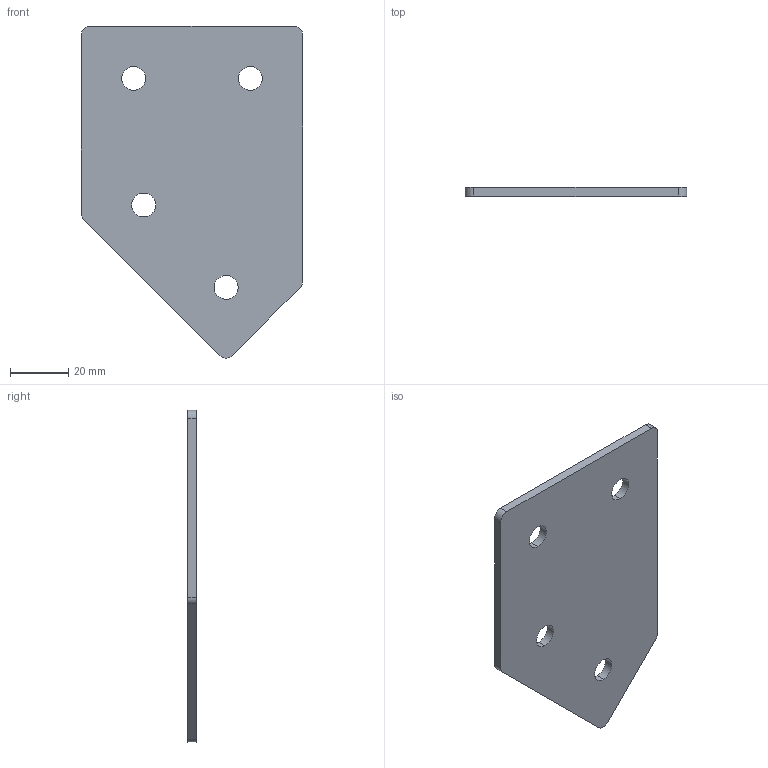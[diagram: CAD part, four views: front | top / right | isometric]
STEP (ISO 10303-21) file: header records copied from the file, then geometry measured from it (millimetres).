
FILE_DESCRIPTION (( 'STEP AP203' ), '1' );
FILE_NAME ('Ï-4-óãîë 45-40.STEP', '2016-07-23T17:01:13', ( '' ), ( '' ), 'SwSTEP 2.0', 'SolidWorks 2014', '' );
FILE_SCHEMA (( 'CONFIG_CONTROL_DESIGN' ));
Length unit declared in the file: millimetre
Products named in the file (1): Ï-4-óãîë 45-40
Bounding box: 76 x 3 x 113.92 mm (x, y, z)
Surface area: 15219 mm2 (no closed solid volume)
Topology: 0 solids, 1 shells, 20 faces, 54 edges, 36 vertices
Faces by surface type: cylinder 13, plane 7
Entity records: 737 total; most frequent: DIRECTION 122, CARTESIAN_POINT 111, ORIENTED_EDGE 108, EDGE_CURVE 54, AXIS2_PLACEMENT_3D 47, VERTEX_POINT 36, EDGE_LOOP 28, VECTOR 28
